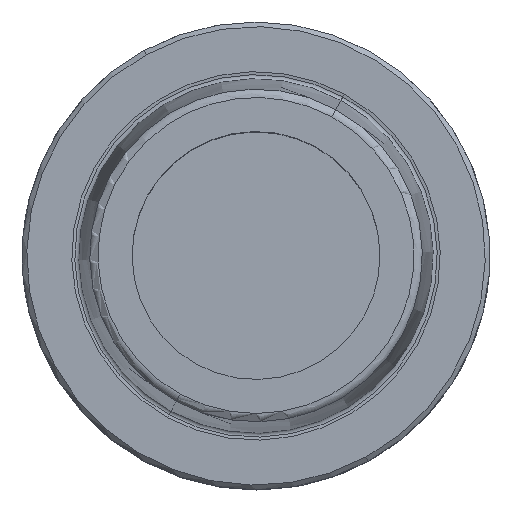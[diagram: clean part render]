
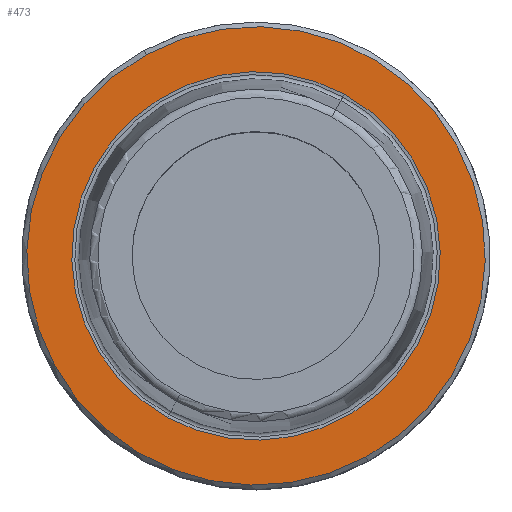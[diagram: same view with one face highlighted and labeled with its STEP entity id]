
A CAD part, top view. The second image highlights one B-rep face of the part: STEP entity #473.
In plain terms, the highlighted planar face has unit normal (0, 0, 1).
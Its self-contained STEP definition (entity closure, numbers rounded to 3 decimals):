
#410=AXIS2_PLACEMENT_3D('Circle Axis2P3D',#408,#409,$) ;
#436=AXIS2_PLACEMENT_3D('Circle Axis2P3D',#434,#435,$) ;
#449=AXIS2_PLACEMENT_3D('Plane Axis2P3D',#446,#447,#448) ;
#453=AXIS2_PLACEMENT_3D('Circle Axis2P3D',#451,#452,$) ;
#462=AXIS2_PLACEMENT_3D('Circle Axis2P3D',#460,#461,$) ;
#408=CARTESIAN_POINT('Axis2P3D Location',(0.,0.,0.)) ;
#412=CARTESIAN_POINT('Vertex',(18.88,34.56,0.)) ;
#414=CARTESIAN_POINT('Vertex',(-18.88,-34.56,0.)) ;
#434=CARTESIAN_POINT('Axis2P3D Location',(0.,0.,0.)) ;
#446=CARTESIAN_POINT('Axis2P3D Location',(0.,-38.285,0.)) ;
#451=CARTESIAN_POINT('Axis2P3D Location',(0.,0.,0.)) ;
#455=CARTESIAN_POINT('Vertex',(23.492,-43.002,0.)) ;
#457=CARTESIAN_POINT('Vertex',(-23.492,43.002,0.)) ;
#460=CARTESIAN_POINT('Axis2P3D Location',(0.,0.,0.)) ;
#409=DIRECTION('Axis2P3D Direction',(0.,0.,1.)) ;
#435=DIRECTION('Axis2P3D Direction',(0.,0.,1.)) ;
#447=DIRECTION('Axis2P3D Direction',(0.,0.,-1.)) ;
#448=DIRECTION('Axis2P3D XDirection',(-1.,0.,0.)) ;
#452=DIRECTION('Axis2P3D Direction',(0.,0.,-1.)) ;
#461=DIRECTION('Axis2P3D Direction',(0.,0.,-1.)) ;
#466=ORIENTED_EDGE('',*,*,#459,.F.) ;
#467=ORIENTED_EDGE('',*,*,#464,.F.) ;
#470=ORIENTED_EDGE('',*,*,#416,.T.) ;
#471=ORIENTED_EDGE('',*,*,#438,.T.) ;
#472=FACE_BOUND('',#469,.T.) ;
#473=ADVANCED_FACE('NOCUT',(#468,#472),#450,.F.) ;
#411=CIRCLE('generated circle',#410,39.381) ;
#437=CIRCLE('generated circle',#436,39.381) ;
#454=CIRCLE('generated circle',#453,49.) ;
#463=CIRCLE('generated circle',#462,49.) ;
#416=EDGE_CURVE('',#413,#415,#411,.F.) ;
#438=EDGE_CURVE('',#415,#413,#437,.F.) ;
#459=EDGE_CURVE('',#456,#458,#454,.T.) ;
#464=EDGE_CURVE('',#458,#456,#463,.T.) ;
#465=EDGE_LOOP('',(#466,#467)) ;
#469=EDGE_LOOP('',(#470,#471)) ;
#468=FACE_OUTER_BOUND('',#465,.T.) ;
#450=PLANE('',#449) ;
#413=VERTEX_POINT('',#412) ;
#415=VERTEX_POINT('',#414) ;
#456=VERTEX_POINT('',#455) ;
#458=VERTEX_POINT('',#457) ;
